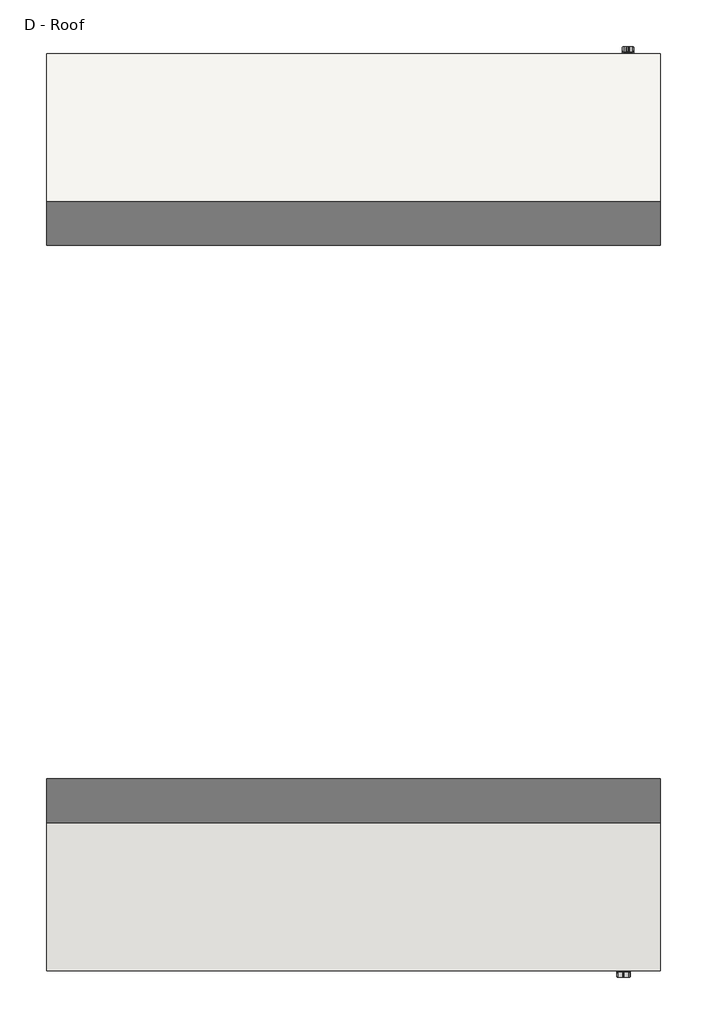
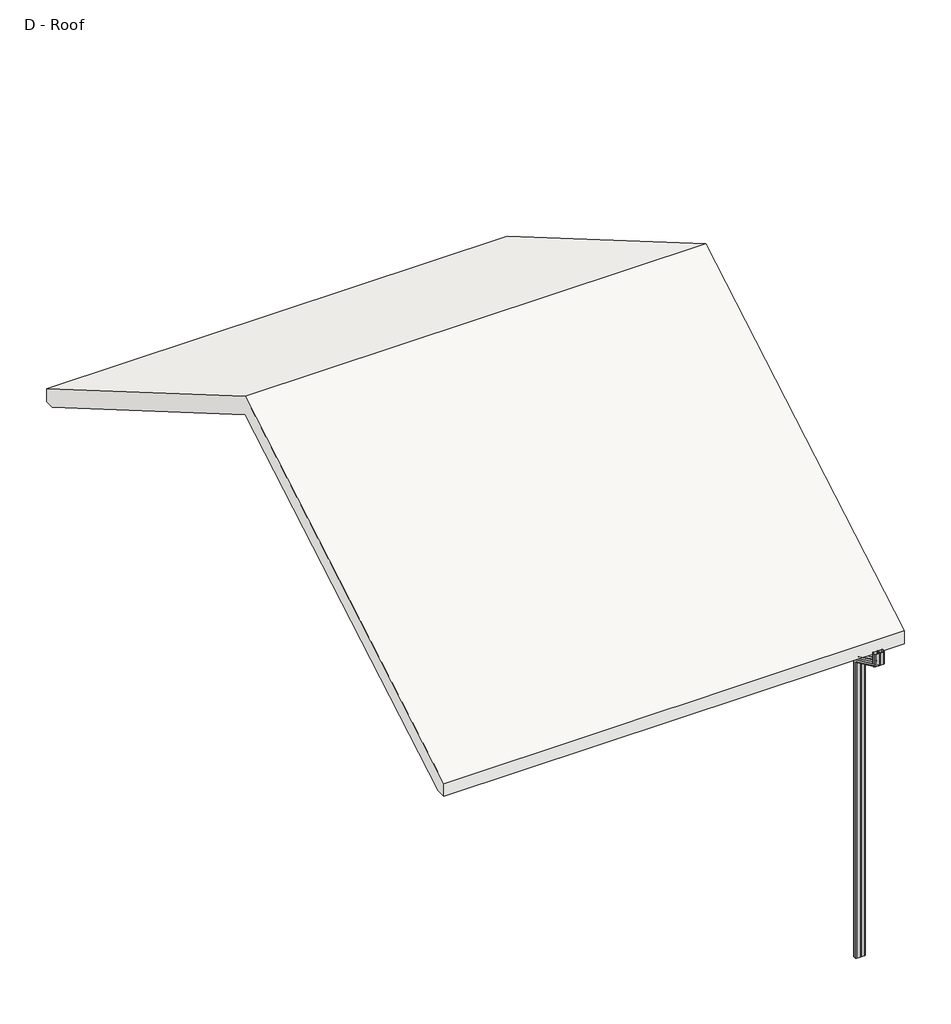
# One storey: 4 proxies, 1 roof.
"""IFC4 building model written with IfcOpenShell, lengths in millimetres."""

from ifc_helpers import new_model, si_unit, frame, origin, place, context, project, spatial, polyline, outline, extrude, transform, mapped, element, save
from components import downspout_parametric_5251_18_830a5993, downspout_parametric_5251_20_f7a235c1

model = new_model("IFC4")

# Units and contexts
model_context = context("Model", 3, world=origin())
ifc_project = project(units=[si_unit("LENGTHUNIT", "METRE", prefix="MILLI")], contexts=[model_context])

# Site, building, storey
site = spatial("IfcSite", under=ifc_project)
building = spatial("IfcBuilding", under=site)
storey = spatial("IfcBuildingStorey", under=building, Name="D - Roof", Elevation=7956.55)

# Proxies
placement = place(None, origin())
downspout_parametric_5251_18_shape = downspout_parametric_5251_18_830a5993(model_context)
element("IfcBuildingElementProxy", 1, Name="Downspout_-_Parametric_5251 : 18'", ObjectType="Downspout_-_Parametric_5251 : 18'", at=placement, inside=storey, context=model_context, shape_type="MappedRepresentation", body=[
    mapped(downspout_parametric_5251_18_shape, transform((17928.1120514, 4843.8210538, 7759.7), x_axis=(-1.0, 0.0, 0.0), y_axis=(0.0, -1.0, 0.0), z_axis=(0.0, 0.0, 1.0))),
])
element("IfcBuildingElementProxy", 2, Name="Downspout_-_Parametric_5251 : 18'", ObjectType="Downspout_-_Parametric_5251 : 18'", at=placement, inside=storey, context=model_context, shape_type="MappedRepresentation", body=[
    mapped(downspout_parametric_5251_18_shape, transform((17867.7870514, 4843.8210538, 7759.7), x_axis=(-1.0, 0.0, 0.0), y_axis=(0.0, -1.0, 0.0), z_axis=(0.0, 0.0, 1.0))),
])
downspout_parametric_5251_20_shape = downspout_parametric_5251_20_f7a235c1(model_context)
element("IfcBuildingElementProxy", 3, Name="Downspout_-_Parametric_5251 : 20'", ObjectType="Downspout_-_Parametric_5251 : 20'", at=placement, inside=storey, context=model_context, shape_type="MappedRepresentation", body=[
    mapped(downspout_parametric_5251_20_shape, transform((17877.3120514, -8018.1039462, 7759.7), x_axis=(1.0, 0.0, 0.0), y_axis=(0.0, 1.0, 0.0), z_axis=(0.0, 0.0, 1.0))),
])
element("IfcBuildingElementProxy", 4, Name="Downspout_-_Parametric_5251 : 20'", ObjectType="Downspout_-_Parametric_5251 : 20'", at=placement, inside=storey, context=model_context, shape_type="MappedRepresentation", body=[
    mapped(downspout_parametric_5251_20_shape, transform((17791.5870514, -8018.1039462, 7759.7), x_axis=(1.0, 0.0, 0.0), y_axis=(0.0, 1.0, 0.0), z_axis=(0.0, 0.0, 1.0))),
])

# Roof
element("IfcRoof", 5, ObjectType="Wood Rafter 12\" - Asphalt Shingle", at=placement, inside=storey, context=model_context, shape_type="SweptSolid", body=[
    extrude(outline(polyline([(-7964.1289462, 7961.1694956), (-1590.3164462, 11679.2267873), (4783.4960538, 7961.1694956), (4783.4960538, 7707.1694956), (4601.4054899, 7707.1694956), (-1590.3164462, 11319.0072917), (-7782.0383823, 7707.1694956), (-7964.1289462, 7707.1694956), (-7964.1289462, 7961.1694956)])), frame((9809.6370514, 0.0, 0.0), z_axis=(1.0, 0.0, 0.0), x_axis=(0.0, 1.0, 0.0)), (0.0, 0.0, 1.0), 8534.4),
])

save(model, "model.ifc")
